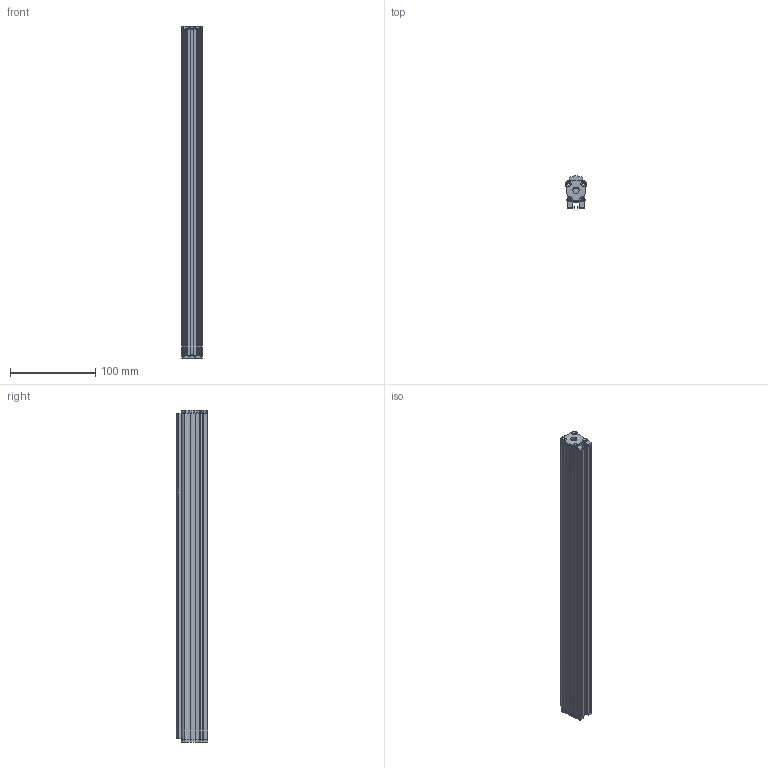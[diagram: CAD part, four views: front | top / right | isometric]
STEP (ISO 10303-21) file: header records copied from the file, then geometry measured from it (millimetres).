
FILE_DESCRIPTION(('STEP AP214'),'1');
FILE_NAME('lin+op 362.stp','2021-02-15T14:43:51',('Blanc'),('Phlox'),'Spatial InterOp 3D',' ',' ');
FILE_SCHEMA(('AUTOMOTIVE_DESIGN { 1 0 10303 214 1 1 1 1 }'));
Length unit declared in the file: inch
Products named in the file (1): Pièce_83634808
Bounding box: 24.54 x 37.28 x 390.29 mm (x, y, z)
Volume: 143090.1 mm3; surface area: 118857.3 mm2
Topology: 6 solids, 6 shells, 380 faces, 1090 edges, 718 vertices
Faces by surface type: cylinder 211, plane 103, bspline 36, cone 16, extrusion 14
Entity records: 25866 total; most frequent: CARTESIAN_POINT 7880, ORIENTED_EDGE 2180, DIRECTION 2086, STYLED_ITEM 1345, PRESENTATION_STYLE_ASSIGNMENT 1345, COLOUR_RGB 1345, EDGE_CURVE 1090, CURVE_STYLE 959
